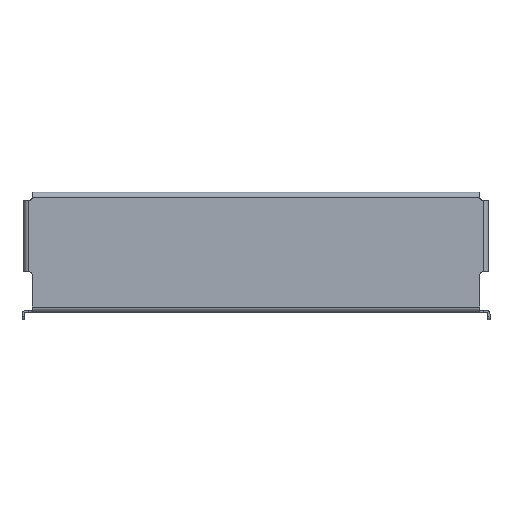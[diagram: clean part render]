
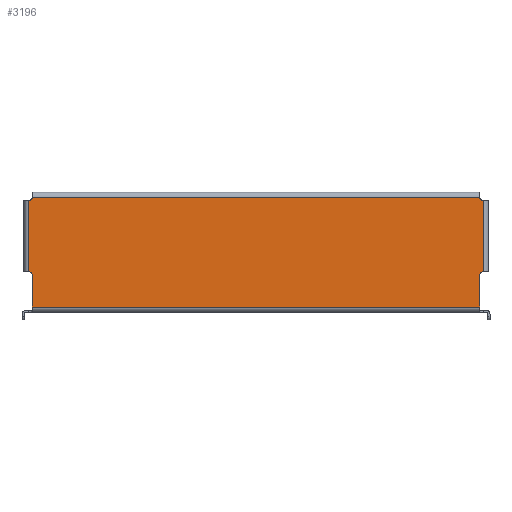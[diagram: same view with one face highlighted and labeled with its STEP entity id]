
A CAD part, front view. The second image highlights one B-rep face of the part: STEP entity #3196.
In plain terms, the highlighted planar face has unit normal (0, -1, 0).
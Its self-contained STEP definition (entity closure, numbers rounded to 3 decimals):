
#1354=AXIS2_PLACEMENT_3D('Circle Axis2P3D',#1352,#1353,$) ;
#1399=AXIS2_PLACEMENT_3D('Circle Axis2P3D',#1397,#1398,$) ;
#1446=AXIS2_PLACEMENT_3D('Circle Axis2P3D',#1444,#1445,$) ;
#1537=AXIS2_PLACEMENT_3D('Circle Axis2P3D',#1535,#1536,$) ;
#3182=AXIS2_PLACEMENT_3D('Plane Axis2P3D',#3179,#3180,#3181) ;
#1069=CARTESIAN_POINT('Line Origine',(-333.5,-745.013,947.2)) ;
#1073=CARTESIAN_POINT('Vertex',(-555.5,-745.013,947.2)) ;
#1075=CARTESIAN_POINT('Vertex',(-135.5,-745.013,947.2)) ;
#1125=CARTESIAN_POINT('Vertex',(-135.5,-745.013,977.2)) ;
#1128=CARTESIAN_POINT('Line Origine',(-135.5,-745.013,962.2)) ;
#1174=CARTESIAN_POINT('Line Origine',(-555.5,-745.013,962.2)) ;
#1178=CARTESIAN_POINT('Vertex',(-555.5,-745.013,977.2)) ;
#1352=CARTESIAN_POINT('Axis2P3D Location',(-132.5,-745.013,977.2)) ;
#1356=CARTESIAN_POINT('Vertex',(-132.5,-745.013,980.2)) ;
#1389=CARTESIAN_POINT('Vertex',(-558.5,-745.013,980.2)) ;
#1397=CARTESIAN_POINT('Axis2P3D Location',(-558.5,-745.013,977.2)) ;
#1427=CARTESIAN_POINT('Vertex',(-555.5,-745.013,1049.9)) ;
#1441=CARTESIAN_POINT('Vertex',(-558.5,-745.013,1046.9)) ;
#1444=CARTESIAN_POINT('Axis2P3D Location',(-558.5,-745.013,1049.9)) ;
#1468=CARTESIAN_POINT('Line Origine',(-558.5,-745.013,998.55)) ;
#1510=CARTESIAN_POINT('Vertex',(-132.5,-745.013,1046.9)) ;
#1513=CARTESIAN_POINT('Line Origine',(-132.5,-745.013,998.55)) ;
#1535=CARTESIAN_POINT('Axis2P3D Location',(-132.5,-745.013,1049.9)) ;
#1539=CARTESIAN_POINT('Vertex',(-135.5,-745.013,1049.9)) ;
#1587=CARTESIAN_POINT('Line Origine',(-333.5,-745.013,1049.9)) ;
#3179=CARTESIAN_POINT('Axis2P3D Location',(0.,-745.013,0.)) ;
#1070=DIRECTION('Vector Direction',(-1.,0.,0.)) ;
#1129=DIRECTION('Vector Direction',(0.,0.,1.)) ;
#1175=DIRECTION('Vector Direction',(0.,0.,1.)) ;
#1353=DIRECTION('Axis2P3D Direction',(0.,-1.,0.)) ;
#1398=DIRECTION('Axis2P3D Direction',(0.,1.,0.)) ;
#1445=DIRECTION('Axis2P3D Direction',(0.,1.,0.)) ;
#1469=DIRECTION('Vector Direction',(0.,0.,-1.)) ;
#1514=DIRECTION('Vector Direction',(0.,0.,1.)) ;
#1536=DIRECTION('Axis2P3D Direction',(0.,-1.,0.)) ;
#1588=DIRECTION('Vector Direction',(1.,0.,0.)) ;
#3180=DIRECTION('Axis2P3D Direction',(0.,-1.,0.)) ;
#3181=DIRECTION('Axis2P3D XDirection',(1.,0.,0.)) ;
#1071=VECTOR('Line Direction',#1070,1.) ;
#1130=VECTOR('Line Direction',#1129,1.) ;
#1176=VECTOR('Line Direction',#1175,1.) ;
#1470=VECTOR('Line Direction',#1469,1.) ;
#1515=VECTOR('Line Direction',#1514,1.) ;
#1589=VECTOR('Line Direction',#1588,1.) ;
#3185=ORIENTED_EDGE('',*,*,#1448,.T.) ;
#3186=ORIENTED_EDGE('',*,*,#1472,.T.) ;
#3187=ORIENTED_EDGE('',*,*,#1401,.T.) ;
#3188=ORIENTED_EDGE('',*,*,#1180,.F.) ;
#3189=ORIENTED_EDGE('',*,*,#1077,.T.) ;
#3190=ORIENTED_EDGE('',*,*,#1132,.T.) ;
#3191=ORIENTED_EDGE('',*,*,#1358,.F.) ;
#3192=ORIENTED_EDGE('',*,*,#1517,.F.) ;
#3193=ORIENTED_EDGE('',*,*,#1541,.F.) ;
#3194=ORIENTED_EDGE('',*,*,#1591,.T.) ;
#3196=ADVANCED_FACE('\X2\51E04F554F53\X0\.76',(#3195),#3183,.T.) ;
#1355=CIRCLE('generated circle',#1354,3.) ;
#1400=CIRCLE('generated circle',#1399,3.) ;
#1447=CIRCLE('generated circle',#1446,3.) ;
#1538=CIRCLE('generated circle',#1537,3.) ;
#1077=EDGE_CURVE('',#1074,#1076,#1072,.F.) ;
#1132=EDGE_CURVE('',#1076,#1126,#1131,.T.) ;
#1180=EDGE_CURVE('',#1074,#1179,#1177,.T.) ;
#1358=EDGE_CURVE('',#1357,#1126,#1355,.T.) ;
#1401=EDGE_CURVE('',#1390,#1179,#1400,.T.) ;
#1448=EDGE_CURVE('',#1428,#1442,#1447,.T.) ;
#1472=EDGE_CURVE('',#1442,#1390,#1471,.T.) ;
#1517=EDGE_CURVE('',#1511,#1357,#1516,.F.) ;
#1541=EDGE_CURVE('',#1540,#1511,#1538,.T.) ;
#1591=EDGE_CURVE('',#1540,#1428,#1590,.F.) ;
#3184=EDGE_LOOP('',(#3185,#3186,#3187,#3188,#3189,#3190,#3191,#3192,#3193,#3194)) ;
#3195=FACE_OUTER_BOUND('',#3184,.T.) ;
#1072=LINE('Line',#1069,#1071) ;
#1131=LINE('Line',#1128,#1130) ;
#1177=LINE('Line',#1174,#1176) ;
#1471=LINE('Line',#1468,#1470) ;
#1516=LINE('Line',#1513,#1515) ;
#1590=LINE('Line',#1587,#1589) ;
#3183=PLANE('Plane',#3182) ;
#1074=VERTEX_POINT('',#1073) ;
#1076=VERTEX_POINT('',#1075) ;
#1126=VERTEX_POINT('',#1125) ;
#1179=VERTEX_POINT('',#1178) ;
#1357=VERTEX_POINT('',#1356) ;
#1390=VERTEX_POINT('',#1389) ;
#1428=VERTEX_POINT('',#1427) ;
#1442=VERTEX_POINT('',#1441) ;
#1511=VERTEX_POINT('',#1510) ;
#1540=VERTEX_POINT('',#1539) ;
